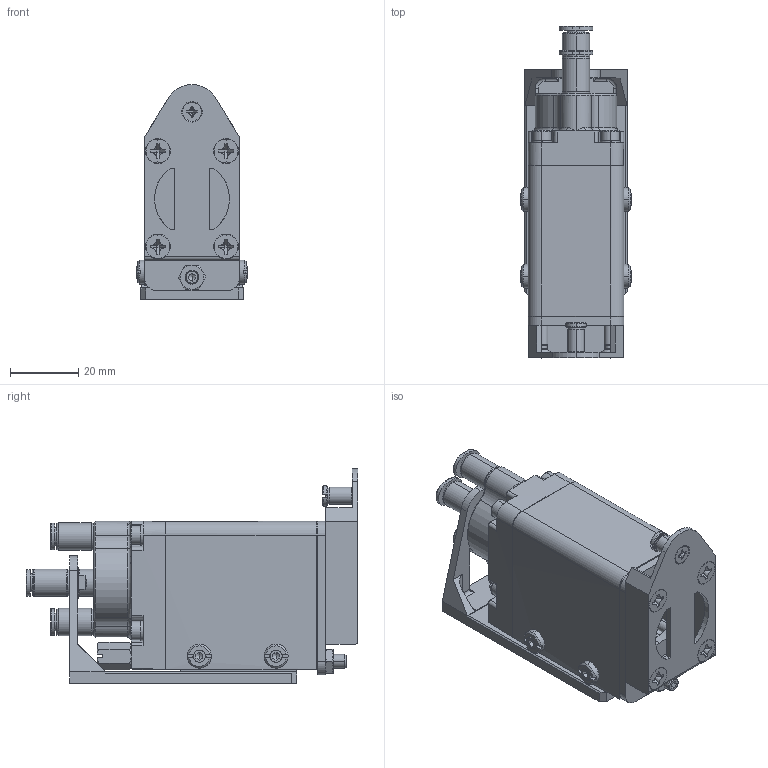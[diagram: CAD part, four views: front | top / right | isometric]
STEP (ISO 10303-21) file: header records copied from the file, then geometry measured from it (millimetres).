
FILE_DESCRIPTION (( 'STEP AP214' ), '1' );
FILE_NAME ('GT-NY10S.STEP', '2019-11-27T02:07:45', ( '微软用户' ), ( '微软中国' ), 'SwSTEP 2.0', 'SolidWorks 2016', '' );
FILE_SCHEMA (( 'AUTOMOTIVE_DESIGN' ));
Length unit declared in the file: millimetre
Products named in the file (1): GT-NY10S
Bounding box: 32.4 x 97.3 x 63 mm (x, y, z)
Surface area: 31071.3 mm2 (no closed solid volume)
Topology: 0 solids, 33 shells, 954 faces, 2489 edges, 1610 vertices
Faces by surface type: plane 435, cylinder 267, bspline 162, cone 50, torus 40
Entity records: 43865 total; most frequent: CARTESIAN_POINT 16130, ORIENTED_EDGE 4851, DIRECTION 4124, EDGE_CURVE 2467, VERTEX_POINT 1610, AXIS2_PLACEMENT_3D 1526, LINE 1072, VECTOR 1072
